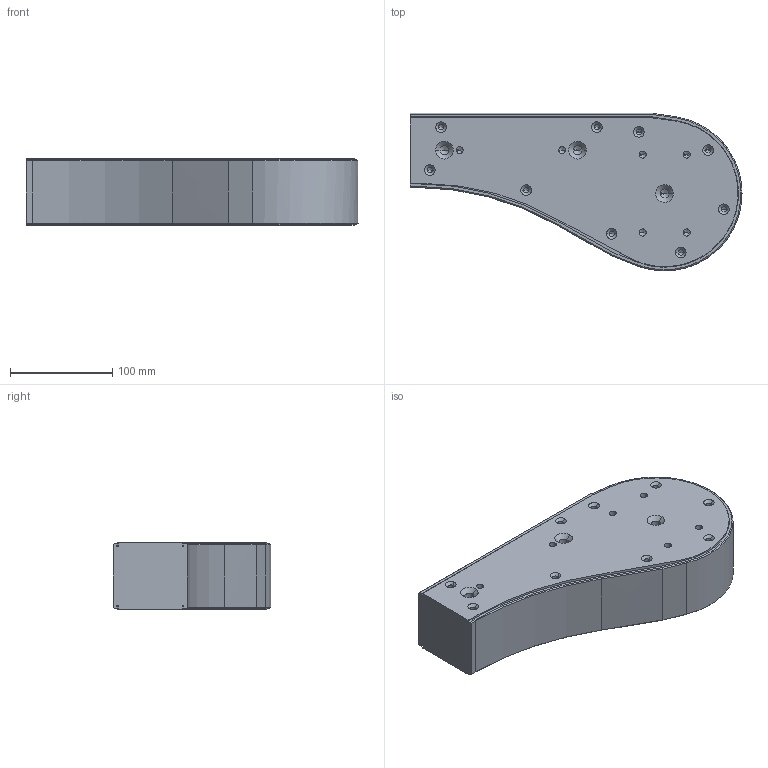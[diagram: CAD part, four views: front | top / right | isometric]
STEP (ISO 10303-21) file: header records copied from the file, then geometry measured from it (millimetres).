
FILE_DESCRIPTION (( 'STEP AP214' ), '1' );
FILE_NAME ('FSIE 320.step', '2017-04-07T11:09:45', ( '' ), ( '' ), 'SwSTEP 2.0', 'SolidWorks 2016', '' );
FILE_SCHEMA (( 'AUTOMOTIVE_DESIGN' ));
Length unit declared in the file: millimetre
Products named in the file (1): FSIE 320
Bounding box: 323.94 x 153.88 x 65 mm (x, y, z)
Volume: 2263672.6 mm3; surface area: 138408.7 mm2
Topology: 1 solids, 1 shells, 256 faces, 630 edges, 340 vertices
Faces by surface type: cone 125, cylinder 91, plane 35, bspline 5
Entity records: 7839 total; most frequent: DIRECTION 1290, CARTESIAN_POINT 1282, ORIENTED_EDGE 1116, EDGE_CURVE 558, AXIS2_PLACEMENT_3D 488, VERTEX_POINT 340, LINE 314, VECTOR 314
